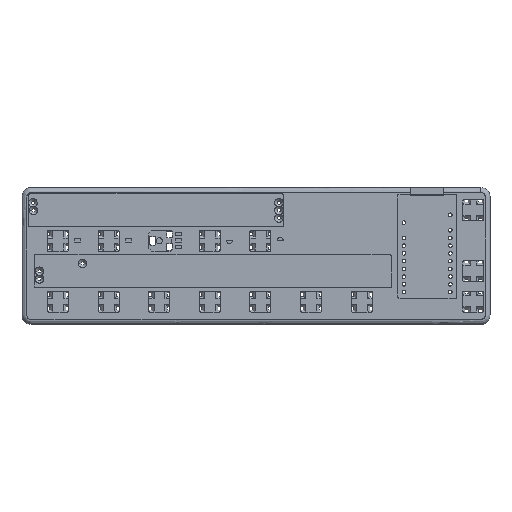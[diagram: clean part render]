
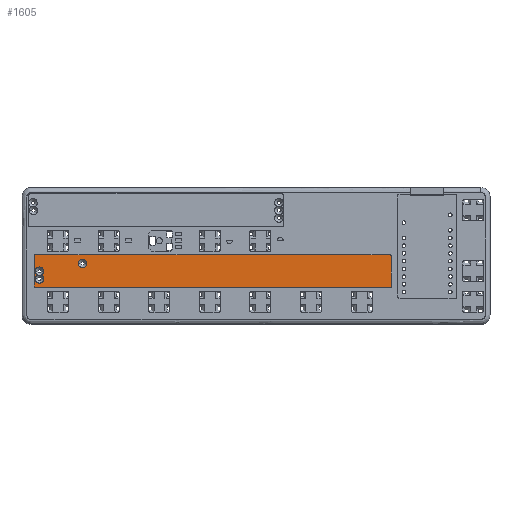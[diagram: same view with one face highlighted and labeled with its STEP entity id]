
A CAD part, top view. The second image highlights one B-rep face of the part: STEP entity #1605.
In plain terms, the highlighted planar face has unit normal (0, 0, 1).
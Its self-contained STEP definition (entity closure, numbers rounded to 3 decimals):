
#83=FACE_BOUND($,#4877,.T.);
#84=FACE_BOUND($,#4878,.T.);
#1605=ADVANCED_FACE($,(#3206,#83,#84),#22102,.T.);
#3206=FACE_OUTER_BOUND($,#4876,.T.);
#4876=EDGE_LOOP($,(#12574,#12575));
#4877=EDGE_LOOP($,(#12576,#12577));
#4878=EDGE_LOOP($,(#12578,#12579,#12580,#12581,#12582,#12583));
#12574=ORIENTED_EDGE($,*,*,#17754,.T.);
#12575=ORIENTED_EDGE($,*,*,#18017,.T.);
#12576=ORIENTED_EDGE($,*,*,#18058,.F.);
#12577=ORIENTED_EDGE($,*,*,#17753,.F.);
#12578=ORIENTED_EDGE($,*,*,#17752,.F.);
#12579=ORIENTED_EDGE($,*,*,#17749,.F.);
#12580=ORIENTED_EDGE($,*,*,#18066,.F.);
#12581=ORIENTED_EDGE($,*,*,#17750,.F.);
#12582=ORIENTED_EDGE($,*,*,#18064,.F.);
#12583=ORIENTED_EDGE($,*,*,#17751,.F.);
#17749=EDGE_CURVE($,#20545,#20547,#26464,.T.);
#17750=EDGE_CURVE($,#20546,#20742,#26465,.T.);
#17751=EDGE_CURVE($,#20548,#20741,#26466,.T.);
#17752=EDGE_CURVE($,#20547,#20548,#26467,.T.);
#17753=EDGE_CURVE($,#20549,#20738,#26468,.T.);
#17754=EDGE_CURVE($,#20550,#20713,#22767,.T.);
#18017=EDGE_CURVE($,#20713,#20550,#22851,.T.);
#18058=EDGE_CURVE($,#20738,#20549,#26672,.T.);
#18064=EDGE_CURVE($,#20741,#20546,#26678,.T.);
#18066=EDGE_CURVE($,#20742,#20545,#26680,.T.);
#20545=VERTEX_POINT($,#74577);
#20546=VERTEX_POINT($,#74578);
#20547=VERTEX_POINT($,#74579);
#20548=VERTEX_POINT($,#74580);
#20549=VERTEX_POINT($,#74581);
#20550=VERTEX_POINT($,#74582);
#20713=VERTEX_POINT($,#74745);
#20738=VERTEX_POINT($,#74770);
#20741=VERTEX_POINT($,#74773);
#20742=VERTEX_POINT($,#74774);
#22102=PLANE($,#27952);
#22767=(
BOUNDED_CURVE()
B_SPLINE_CURVE(2,(#53344,#53345,#53346,#53347,#53348,#53349,#53350,#53351,
#53352),.UNSPECIFIED.,.F.,.F.)
B_SPLINE_CURVE_WITH_KNOTS((3,2,2,2,3),(0.,116.62,117.42,127.42,128.22),.UNSPECIFIED.)
CURVE()
GEOMETRIC_REPRESENTATION_ITEM()
RATIONAL_B_SPLINE_CURVE((1.,1.,1.,0.707,1.,1.,1.,0.707,
1.))
REPRESENTATION_ITEM($)
);
#22851=(
BOUNDED_CURVE()
B_SPLINE_CURVE(2,(#54590,#54591,#54592,#54593,#54594,#54595,#54596,#54597,
#54598),.UNSPECIFIED.,.F.,.F.)
B_SPLINE_CURVE_WITH_KNOTS((3,2,2,2,3),(128.22,244.84,245.64,255.64,256.44),
.UNSPECIFIED.)
CURVE()
GEOMETRIC_REPRESENTATION_ITEM()
RATIONAL_B_SPLINE_CURVE((1.,1.,1.,0.707,1.,1.,1.,0.707,
1.))
REPRESENTATION_ITEM($)
);
#26464=B_SPLINE_CURVE_WITH_KNOTS($,3,(#53303,#53304,#53305,#53306,#53307,
#53308),.UNSPECIFIED.,.F.,.F.,(4,1,1,4),(0.,0.51,1.063,
1.591),.UNSPECIFIED.);
#26465=B_SPLINE_CURVE_WITH_KNOTS($,3,(#53309,#53310,#53311,#53312,#53313,
#53314),.UNSPECIFIED.,.F.,.F.,(4,1,1,4),(2.806,3.262,
3.818,4.397),.UNSPECIFIED.);
#26466=B_SPLINE_CURVE_WITH_KNOTS($,3,(#53315,#53316,#53317,#53318,#53319,
#53320,#53321,#53322,#53323,#53324,#53325,#53326),.UNSPECIFIED.,.F.,.F.,
(4,1,1,1,1,1,1,1,1,4),(0.,0.51,1.063,1.619,
2.199,2.709,3.262,3.818,4.398,
4.398),.UNSPECIFIED.);
#26467=B_SPLINE_CURVE_WITH_KNOTS($,3,(#53327,#53328,#53329,#53330,#53331,
#53332),.UNSPECIFIED.,.F.,.F.,(4,1,1,4),(7.205,7.66,
8.216,8.796),.UNSPECIFIED.);
#26468=B_SPLINE_CURVE_WITH_KNOTS($,3,(#53333,#53334,#53335,#53336,#53337,
#53338,#53339,#53340,#53341,#53342,#53343),.UNSPECIFIED.,.F.,.F.,(4,1,1,
1,1,1,1,1,4),(0.,0.51,1.063,1.619,2.199,
2.709,3.262,3.818,4.398),.UNSPECIFIED.);
#26672=B_SPLINE_CURVE_WITH_KNOTS($,3,(#54815,#54816,#54817,#54818,#54819,
#54820,#54821,#54822,#54823,#54824,#54825),.UNSPECIFIED.,.F.,.F.,(4,1,1,
1,1,1,1,1,4),(4.398,4.908,5.461,6.017,
6.597,7.108,7.66,8.216,8.796),
.UNSPECIFIED.);
#26678=B_SPLINE_CURVE_WITH_KNOTS($,3,(#54851,#54852,#54853,#54854,#54855,
#54856),.UNSPECIFIED.,.F.,.F.,(4,1,1,4),(4.398,4.908,
5.461,5.99),.UNSPECIFIED.);
#26680=B_SPLINE_CURVE_WITH_KNOTS($,3,(#54859,#54860,#54861,#54862,#54863,
#54864,#54865,#54866,#54867,#54868,#54869,#54870),.UNSPECIFIED.,.F.,.F.,
(4,1,1,1,1,1,1,1,1,4),(4.397,4.398,4.908,
5.461,6.017,6.597,7.108,7.66,
8.216,8.796),.UNSPECIFIED.);
#27952=AXIS2_PLACEMENT_3D($,#70283,#29165,$);
#29165=DIRECTION($,(0.,0.,1.));
#53303=CARTESIAN_POINT($,(7.15,14.96,3.5));
#53304=CARTESIAN_POINT($,(7.15,15.13,3.5));
#53305=CARTESIAN_POINT($,(7.084,15.485,3.5));
#53306=CARTESIAN_POINT($,(6.796,15.942,3.5));
#53307=CARTESIAN_POINT($,(6.498,16.156,3.5));
#53308=CARTESIAN_POINT($,(6.339,16.23,3.5));
#53309=CARTESIAN_POINT($,(5.162,16.23,3.5));
#53310=CARTESIAN_POINT($,(5.024,16.166,3.5));
#53311=CARTESIAN_POINT($,(4.741,15.974,3.5));
#53312=CARTESIAN_POINT($,(4.43,15.531,3.5));
#53313=CARTESIAN_POINT($,(4.35,15.153,3.5));
#53314=CARTESIAN_POINT($,(4.35,14.96,3.5));
#53315=CARTESIAN_POINT($,(7.15,17.5,3.5));
#53316=CARTESIAN_POINT($,(7.15,17.67,3.5));
#53317=CARTESIAN_POINT($,(7.084,18.025,3.5));
#53318=CARTESIAN_POINT($,(6.791,18.49,3.5));
#53319=CARTESIAN_POINT($,(6.321,18.821,3.5));
#53320=CARTESIAN_POINT($,(5.773,18.936,3.5));
#53321=CARTESIAN_POINT($,(5.225,18.835,3.5));
#53322=CARTESIAN_POINT($,(4.759,18.542,3.5));
#53323=CARTESIAN_POINT($,(4.429,18.072,3.5));
#53324=CARTESIAN_POINT($,(4.35,17.694,3.5));
#53325=CARTESIAN_POINT($,(4.35,17.5,3.5));
#53326=CARTESIAN_POINT($,(4.35,17.5,3.5));
#53327=CARTESIAN_POINT($,(6.339,16.23,3.5));
#53328=CARTESIAN_POINT($,(6.476,16.294,3.5));
#53329=CARTESIAN_POINT($,(6.759,16.486,3.5));
#53330=CARTESIAN_POINT($,(7.07,16.928,3.5));
#53331=CARTESIAN_POINT($,(7.15,17.307,3.5));
#53332=CARTESIAN_POINT($,(7.15,17.5,3.5));
#53333=CARTESIAN_POINT($,(21.31,20.04,3.5));
#53334=CARTESIAN_POINT($,(21.31,20.21,3.5));
#53335=CARTESIAN_POINT($,(21.244,20.565,3.5));
#53336=CARTESIAN_POINT($,(20.951,21.03,3.5));
#53337=CARTESIAN_POINT($,(20.481,21.361,3.5));
#53338=CARTESIAN_POINT($,(19.933,21.476,3.5));
#53339=CARTESIAN_POINT($,(19.385,21.375,3.5));
#53340=CARTESIAN_POINT($,(18.919,21.082,3.5));
#53341=CARTESIAN_POINT($,(18.589,20.612,3.5));
#53342=CARTESIAN_POINT($,(18.509,20.233,3.5));
#53343=CARTESIAN_POINT($,(18.509,20.04,3.5));
#53344=CARTESIAN_POINT($,(4.5,12.1,3.5));
#53345=CARTESIAN_POINT($,(62.81,12.1,3.5));
#53346=CARTESIAN_POINT($,(121.12,12.1,3.5));
#53347=CARTESIAN_POINT($,(121.52,12.1,3.5));
#53348=CARTESIAN_POINT($,(121.52,12.5,3.5));
#53349=CARTESIAN_POINT($,(121.52,17.5,3.5));
#53350=CARTESIAN_POINT($,(121.52,22.5,3.5));
#53351=CARTESIAN_POINT($,(121.52,22.9,3.5));
#53352=CARTESIAN_POINT($,(121.12,22.9,3.5));
#54590=CARTESIAN_POINT($,(121.12,22.9,3.5));
#54591=CARTESIAN_POINT($,(62.81,22.9,3.5));
#54592=CARTESIAN_POINT($,(4.5,22.9,3.5));
#54593=CARTESIAN_POINT($,(4.1,22.9,3.5));
#54594=CARTESIAN_POINT($,(4.1,22.5,3.5));
#54595=CARTESIAN_POINT($,(4.1,17.5,3.5));
#54596=CARTESIAN_POINT($,(4.1,12.5,3.5));
#54597=CARTESIAN_POINT($,(4.1,12.1,3.5));
#54598=CARTESIAN_POINT($,(4.5,12.1,3.5));
#54815=CARTESIAN_POINT($,(18.509,20.04,3.5));
#54816=CARTESIAN_POINT($,(18.509,19.87,3.5));
#54817=CARTESIAN_POINT($,(18.575,19.515,3.5));
#54818=CARTESIAN_POINT($,(18.868,19.05,3.5));
#54819=CARTESIAN_POINT($,(19.338,18.72,3.5));
#54820=CARTESIAN_POINT($,(19.886,18.604,3.5));
#54821=CARTESIAN_POINT($,(20.434,18.705,3.5));
#54822=CARTESIAN_POINT($,(20.9,18.998,3.5));
#54823=CARTESIAN_POINT($,(21.23,19.468,3.5));
#54824=CARTESIAN_POINT($,(21.31,19.847,3.5));
#54825=CARTESIAN_POINT($,(21.31,20.04,3.5));
#54851=CARTESIAN_POINT($,(4.35,17.5,3.5));
#54852=CARTESIAN_POINT($,(4.35,17.33,3.5));
#54853=CARTESIAN_POINT($,(4.415,16.976,3.5));
#54854=CARTESIAN_POINT($,(4.703,16.518,3.5));
#54855=CARTESIAN_POINT($,(5.002,16.304,3.5));
#54856=CARTESIAN_POINT($,(5.162,16.23,3.5));
#54859=CARTESIAN_POINT($,(4.35,14.96,3.5));
#54860=CARTESIAN_POINT($,(4.35,14.96,3.5));
#54861=CARTESIAN_POINT($,(4.35,14.789,3.5));
#54862=CARTESIAN_POINT($,(4.415,14.435,3.5));
#54863=CARTESIAN_POINT($,(4.708,13.969,3.5));
#54864=CARTESIAN_POINT($,(5.178,13.639,3.5));
#54865=CARTESIAN_POINT($,(5.726,13.524,3.5));
#54866=CARTESIAN_POINT($,(6.274,13.625,3.5));
#54867=CARTESIAN_POINT($,(6.74,13.918,3.5));
#54868=CARTESIAN_POINT($,(7.07,14.388,3.5));
#54869=CARTESIAN_POINT($,(7.15,14.767,3.5));
#54870=CARTESIAN_POINT($,(7.15,14.96,3.5));
#70283=CARTESIAN_POINT($,(4.1,12.1,3.5));
#74577=CARTESIAN_POINT($,(7.15,14.96,3.5));
#74578=CARTESIAN_POINT($,(5.162,16.23,3.5));
#74579=CARTESIAN_POINT($,(6.339,16.23,3.5));
#74580=CARTESIAN_POINT($,(7.15,17.5,3.5));
#74581=CARTESIAN_POINT($,(21.31,20.04,3.5));
#74582=CARTESIAN_POINT($,(4.5,12.1,3.5));
#74745=CARTESIAN_POINT($,(121.12,22.9,3.5));
#74770=CARTESIAN_POINT($,(18.509,20.04,3.5));
#74773=CARTESIAN_POINT($,(4.349,17.5,3.5));
#74774=CARTESIAN_POINT($,(4.349,14.96,3.5));
